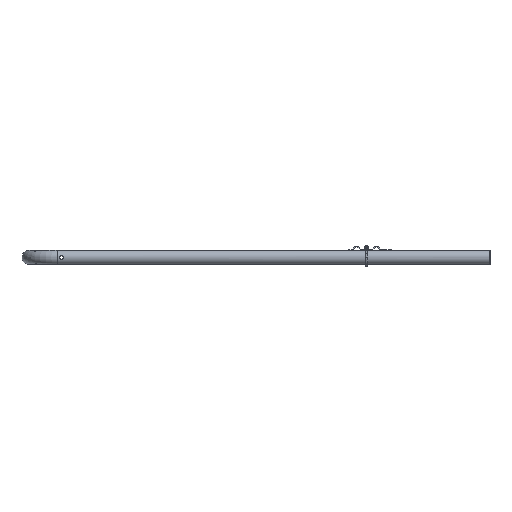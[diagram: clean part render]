
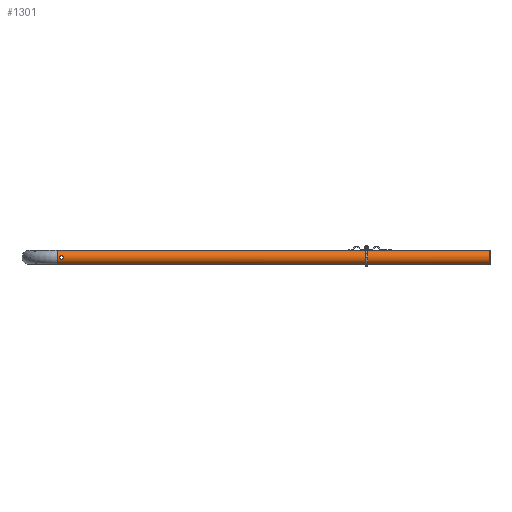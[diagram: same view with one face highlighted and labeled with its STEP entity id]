
A CAD part, left-side view. The second image highlights one B-rep face of the part: STEP entity #1301.
In plain terms, the highlighted cylindrical face has radius 21.2 mm (diameter 42.4 mm), a full revolution.
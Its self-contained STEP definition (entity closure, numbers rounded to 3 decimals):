
#192=CARTESIAN_POINT('',(20.474,1001.2,-5.5));
#193=VERTEX_POINT('',#192);
#194=CARTESIAN_POINT('',(20.474,1001.2,-5.5));
#195=CARTESIAN_POINT('',(20.474,1000.506,-5.5));
#196=CARTESIAN_POINT('',(20.513,999.768,-5.361));
#197=CARTESIAN_POINT('',(20.652,998.414,-4.798));
#198=CARTESIAN_POINT('',(20.749,997.797,-4.376));
#199=CARTESIAN_POINT('',(20.931,996.824,-3.403));
#200=CARTESIAN_POINT('',(21.027,996.402,-2.786));
#201=CARTESIAN_POINT('',(21.163,995.839,-1.432));
#202=CARTESIAN_POINT('',(21.2,995.7,-0.694));
#203=CARTESIAN_POINT('',(21.2,995.7,0.694));
#204=CARTESIAN_POINT('',(21.163,995.839,1.432));
#205=CARTESIAN_POINT('',(21.027,996.402,2.786));
#206=CARTESIAN_POINT('',(20.931,996.824,3.403));
#207=CARTESIAN_POINT('',(20.749,997.797,4.376));
#208=CARTESIAN_POINT('',(20.652,998.414,4.798));
#209=CARTESIAN_POINT('',(20.513,999.768,5.361));
#210=CARTESIAN_POINT('',(20.474,1000.506,5.5));
#211=CARTESIAN_POINT('',(20.474,1001.894,5.5));
#212=CARTESIAN_POINT('',(20.513,1002.632,5.361));
#213=CARTESIAN_POINT('',(20.652,1003.986,4.798));
#214=CARTESIAN_POINT('',(20.749,1004.603,4.376));
#215=CARTESIAN_POINT('',(20.931,1005.576,3.403));
#216=CARTESIAN_POINT('',(21.027,1005.998,2.786));
#217=CARTESIAN_POINT('',(21.163,1006.561,1.432));
#218=CARTESIAN_POINT('',(21.2,1006.7,0.694));
#219=CARTESIAN_POINT('',(21.2,1006.7,-0.694));
#220=CARTESIAN_POINT('',(21.163,1006.561,-1.432));
#221=CARTESIAN_POINT('',(21.027,1005.998,-2.786));
#222=CARTESIAN_POINT('',(20.931,1005.576,-3.403));
#223=CARTESIAN_POINT('',(20.749,1004.603,-4.376));
#224=CARTESIAN_POINT('',(20.652,1003.986,-4.798));
#225=CARTESIAN_POINT('',(20.513,1002.632,-5.361));
#226=CARTESIAN_POINT('',(20.474,1001.894,-5.5));
#227=CARTESIAN_POINT('',(20.474,1001.2,-5.5));
#228=B_SPLINE_CURVE_WITH_KNOTS('',3,(#194,#195,#196,#197,#198,#199,#200,#201,#202,#203,#204,#205,#206,#207,#208,#209,#210,#211,#212,#213,#214,#215,#216,#217,#218,#219,#220,#221,#222,#223,#224,#225,#226,#227),.UNSPECIFIED.,.T.,.U.,(4,2,2,2,2,2,2,2,2,2,2,2,2,2,2,2,4),(0.0,0.208,0.416,0.625,0.833,1.041,1.249,1.457,1.666,1.874,2.082,2.29,2.498,2.707,2.915,3.123,3.331),.UNSPECIFIED.);
#229=EDGE_CURVE('',#193,#193,#228,.T.);
#280=CARTESIAN_POINT('',(-20.474,1001.2,-5.5));
#281=VERTEX_POINT('',#280);
#282=CARTESIAN_POINT('',(-20.474,1001.2,-5.5));
#283=CARTESIAN_POINT('',(-20.474,1001.894,-5.5));
#284=CARTESIAN_POINT('',(-20.513,1002.632,-5.361));
#285=CARTESIAN_POINT('',(-20.652,1003.986,-4.798));
#286=CARTESIAN_POINT('',(-20.749,1004.603,-4.376));
#287=CARTESIAN_POINT('',(-20.931,1005.576,-3.403));
#288=CARTESIAN_POINT('',(-21.027,1005.998,-2.786));
#289=CARTESIAN_POINT('',(-21.163,1006.561,-1.432));
#290=CARTESIAN_POINT('',(-21.2,1006.7,-0.694));
#291=CARTESIAN_POINT('',(-21.2,1006.7,0.694));
#292=CARTESIAN_POINT('',(-21.163,1006.561,1.432));
#293=CARTESIAN_POINT('',(-21.027,1005.998,2.786));
#294=CARTESIAN_POINT('',(-20.931,1005.576,3.403));
#295=CARTESIAN_POINT('',(-20.749,1004.603,4.376));
#296=CARTESIAN_POINT('',(-20.652,1003.986,4.798));
#297=CARTESIAN_POINT('',(-20.513,1002.632,5.361));
#298=CARTESIAN_POINT('',(-20.474,1001.894,5.5));
#299=CARTESIAN_POINT('',(-20.474,1000.506,5.5));
#300=CARTESIAN_POINT('',(-20.513,999.768,5.361));
#301=CARTESIAN_POINT('',(-20.652,998.414,4.798));
#302=CARTESIAN_POINT('',(-20.749,997.797,4.376));
#303=CARTESIAN_POINT('',(-20.931,996.824,3.403));
#304=CARTESIAN_POINT('',(-21.027,996.402,2.786));
#305=CARTESIAN_POINT('',(-21.163,995.839,1.432));
#306=CARTESIAN_POINT('',(-21.2,995.7,0.694));
#307=CARTESIAN_POINT('',(-21.2,995.7,-0.694));
#308=CARTESIAN_POINT('',(-21.163,995.839,-1.432));
#309=CARTESIAN_POINT('',(-21.027,996.402,-2.786));
#310=CARTESIAN_POINT('',(-20.931,996.824,-3.403));
#311=CARTESIAN_POINT('',(-20.749,997.797,-4.376));
#312=CARTESIAN_POINT('',(-20.652,998.414,-4.798));
#313=CARTESIAN_POINT('',(-20.513,999.768,-5.361));
#314=CARTESIAN_POINT('',(-20.474,1000.506,-5.5));
#315=CARTESIAN_POINT('',(-20.474,1001.2,-5.5));
#316=B_SPLINE_CURVE_WITH_KNOTS('',3,(#282,#283,#284,#285,#286,#287,#288,#289,#290,#291,#292,#293,#294,#295,#296,#297,#298,#299,#300,#301,#302,#303,#304,#305,#306,#307,#308,#309,#310,#311,#312,#313,#314,#315),.UNSPECIFIED.,.T.,.U.,(4,2,2,2,2,2,2,2,2,2,2,2,2,2,2,2,4),(0.0,0.208,0.416,0.625,0.833,1.041,1.249,1.457,1.666,1.874,2.082,2.29,2.498,2.707,2.915,3.123,3.331),.UNSPECIFIED.);
#317=EDGE_CURVE('',#281,#281,#316,.T.);
#1264=CARTESIAN_POINT('',(-21.2,1013.5,0.));
#1265=VERTEX_POINT('',#1264);
#1266=CARTESIAN_POINT('',(0.0,1013.5,0.0));
#1267=DIRECTION('',(0.0,-1.0,0.0));
#1268=DIRECTION('',(1.0,0.0,0.0));
#1269=AXIS2_PLACEMENT_3D('',#1266,#1267,#1268);
#1270=CIRCLE('',#1269,21.2);
#1271=EDGE_CURVE('',#1265,#1265,#1270,.T.);
#1276=CARTESIAN_POINT('',(0.0,-300.,0.0));
#1277=DIRECTION('',(0.0,1.0,0.0));
#1278=DIRECTION('',(1.0,0.0,0.0));
#1279=AXIS2_PLACEMENT_3D('',#1276,#1277,#1278);
#1280=CYLINDRICAL_SURFACE('',#1279,21.2);
#1281=ORIENTED_EDGE('',*,*,#1271,.T.);
#1282=EDGE_LOOP('',(#1281));
#1283=FACE_OUTER_BOUND('',#1282,.T.);
#1284=ORIENTED_EDGE('',*,*,#229,.T.);
#1285=EDGE_LOOP('',(#1284));
#1286=FACE_BOUND('',#1285,.T.);
#1287=ORIENTED_EDGE('',*,*,#317,.T.);
#1288=EDGE_LOOP('',(#1287));
#1289=FACE_BOUND('',#1288,.T.);
#1290=CARTESIAN_POINT('',(-21.2,-300.,0.));
#1291=VERTEX_POINT('',#1290);
#1292=CARTESIAN_POINT('',(0.0,-300.,0.0));
#1293=DIRECTION('',(0.0,-1.0,0.0));
#1294=DIRECTION('',(1.0,0.0,0.0));
#1295=AXIS2_PLACEMENT_3D('',#1292,#1293,#1294);
#1296=CIRCLE('',#1295,21.2);
#1297=EDGE_CURVE('',#1291,#1291,#1296,.T.);
#1298=ORIENTED_EDGE('',*,*,#1297,.F.);
#1299=EDGE_LOOP('',(#1298));
#1300=FACE_BOUND('',#1299,.T.);
#1301=ADVANCED_FACE('',(#1283,#1286,#1289,#1300),#1280,.T.);
